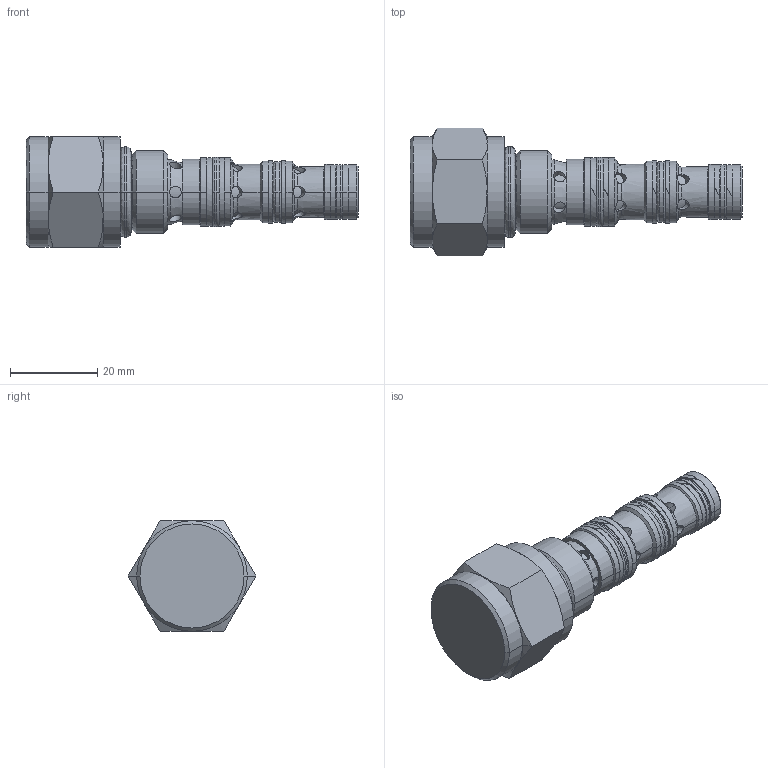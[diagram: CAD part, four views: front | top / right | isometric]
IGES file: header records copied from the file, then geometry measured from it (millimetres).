
Start section:  PTC IGES file: PDCV-08-C-_.igs
Global section: file name: PDCV-08-C-_.igs; native system: Creo Elements/Pro by Parametric Technology Corporation; preprocessor: 2015070; author: torrese; organization: Unknown; date: 20151218.091521; units: inch
Bounding box: 76.2 x 29.33 x 25.4 mm (x, y, z)
Volume: 20962.6 mm3; surface area: 6049.8 mm2
Topology: 1 solids, 1 shells, 227 faces, 561 edges, 346 vertices
Faces by surface type: revolution 182, bspline 45
